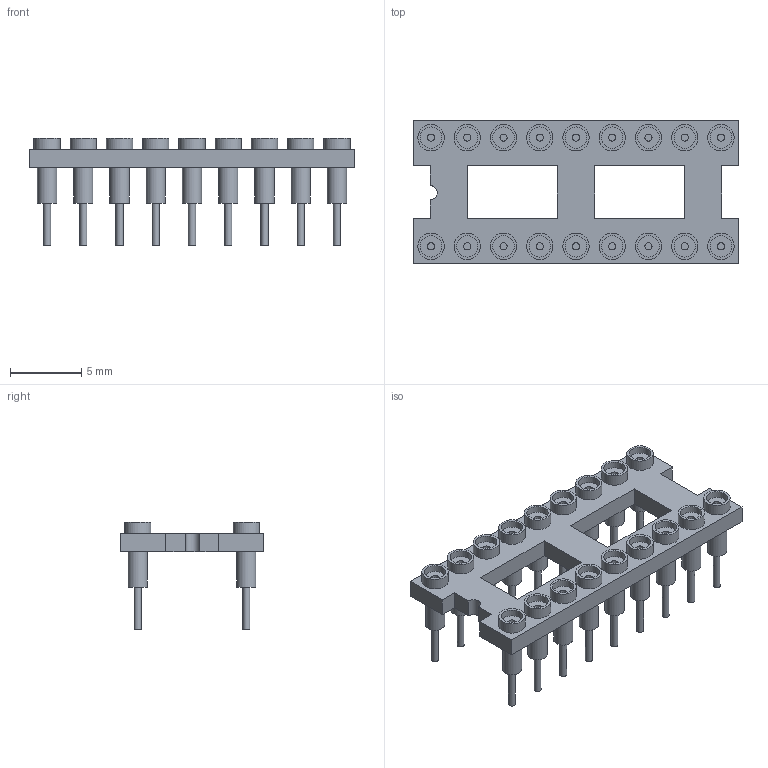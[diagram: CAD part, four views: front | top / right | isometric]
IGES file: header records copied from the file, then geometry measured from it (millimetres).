
Global section: file name: No Iges File Name specified; native system: AutoDesk Inventor R6.0; preprocessor: AutoDesk Inventor Iges Exporter R6.0; author: No Author specified; organization: No Organization specified; date: 20080103.180603; units: inch
Bounding box: 22.83 x 10.08 x 7.55 mm (x, y, z)
Surface area: 1155.9 mm2 (no closed solid volume)
Topology: 0 solids, 0 shells, 222 faces, 654 edges, 546 vertices
Faces by surface type: plane 95, bspline 72, revolution 55
